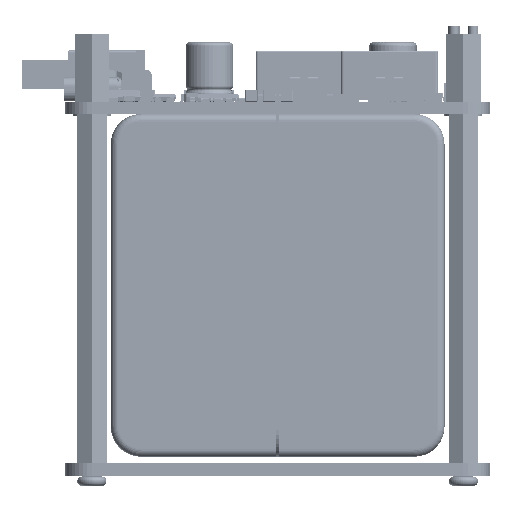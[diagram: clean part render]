
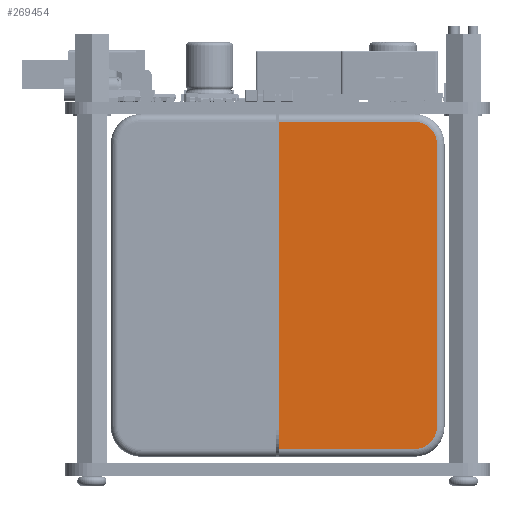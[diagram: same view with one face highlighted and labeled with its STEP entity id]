
A CAD part, left-side view. The second image highlights one B-rep face of the part: STEP entity #269454.
In plain terms, the highlighted planar face has unit normal (-1, 0, 0).
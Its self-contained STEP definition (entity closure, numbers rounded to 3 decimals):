
#11631=PLANE('',#284882);
#21261=FACE_OUTER_BOUND('',#35760,.T.);
#35760=EDGE_LOOP('',(#194350,#194351,#194352,#194353,#194354,#194355));
#51689=LINE('',#380566,#82072);
#51779=LINE('',#380774,#82162);
#51780=LINE('',#380778,#82163);
#51781=LINE('',#380782,#82164);
#82072=VECTOR('',#308539,1.);
#82162=VECTOR('',#308751,1.);
#82163=VECTOR('',#308756,1.);
#82164=VECTOR('',#308759,1.);
#110539=CIRCLE('',#284883,3.);
#110540=CIRCLE('',#284884,3.);
#118931=VERTEX_POINT('',#380563);
#118932=VERTEX_POINT('',#380565);
#118989=VERTEX_POINT('',#380773);
#118990=VERTEX_POINT('',#380777);
#118991=VERTEX_POINT('',#380779);
#118992=VERTEX_POINT('',#380781);
#149909=EDGE_CURVE('',#118932,#118931,#51689,.T.);
#150014=EDGE_CURVE('',#118931,#118989,#51779,.T.);
#150016=EDGE_CURVE('',#118932,#118990,#51780,.T.);
#150017=EDGE_CURVE('',#118989,#118991,#110539,.T.);
#150018=EDGE_CURVE('',#118992,#118991,#51781,.T.);
#150019=EDGE_CURVE('',#118992,#118990,#110540,.T.);
#194350=ORIENTED_EDGE('',*,*,#150016,.F.);
#194351=ORIENTED_EDGE('',*,*,#149909,.T.);
#194352=ORIENTED_EDGE('',*,*,#150014,.T.);
#194353=ORIENTED_EDGE('',*,*,#150017,.T.);
#194354=ORIENTED_EDGE('',*,*,#150018,.F.);
#194355=ORIENTED_EDGE('',*,*,#150019,.T.);
#269454=ADVANCED_FACE('',(#21261),#11631,.T.);
#284882=AXIS2_PLACEMENT_3D('',#380776,#308754,#308755);
#284883=AXIS2_PLACEMENT_3D('',#380780,#308757,#308758);
#284884=AXIS2_PLACEMENT_3D('',#380783,#308760,#308761);
#308539=DIRECTION('',(0.,-1.,0.));
#308751=DIRECTION('',(0.,0.,1.));
#308754=DIRECTION('center_axis',(-1.,0.,0.));
#308755=DIRECTION('ref_axis',(0.,-1.,0.));
#308756=DIRECTION('',(0.,0.,1.));
#308757=DIRECTION('center_axis',(-1.,0.,0.));
#308758=DIRECTION('ref_axis',(0.,-1.,0.));
#308759=DIRECTION('',(0.,-1.,0.));
#308760=DIRECTION('center_axis',(-1.,0.,0.));
#308761=DIRECTION('ref_axis',(0.,0.,
1.));
#380563=CARTESIAN_POINT('',(-85.5,1.,0.));
#380565=CARTESIAN_POINT('',(-85.5,44.2,0.));
#380566=CARTESIAN_POINT('',(-85.5,44.2,0.));
#380773=CARTESIAN_POINT('',(-85.5,1.,17.8));
#380774=CARTESIAN_POINT('',(-85.5,1.,0.));
#380776=CARTESIAN_POINT('Origin',(-85.5,45.2,0.));
#380777=CARTESIAN_POINT('',(-85.5,44.2,17.8));
#380778=CARTESIAN_POINT('',(-85.5,44.2,0.));
#380779=CARTESIAN_POINT('',(-85.5,4.,20.8));
#380780=CARTESIAN_POINT('Origin',(-85.5,4.,17.8));
#380781=CARTESIAN_POINT('',(-85.5,41.2,20.8));
#380782=CARTESIAN_POINT('',(-85.5,41.2,20.8));
#380783=CARTESIAN_POINT('Origin',(-85.5,41.2,17.8));
